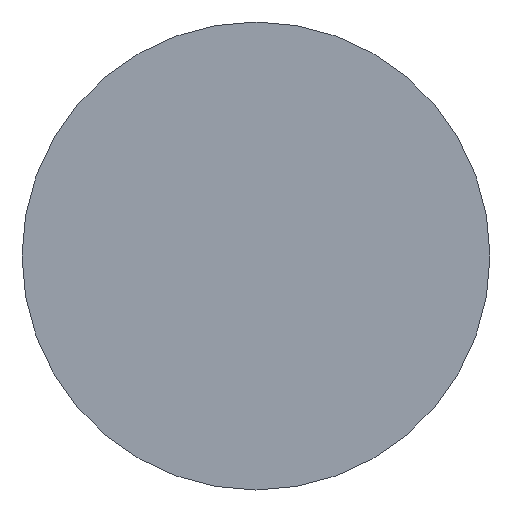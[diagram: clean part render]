
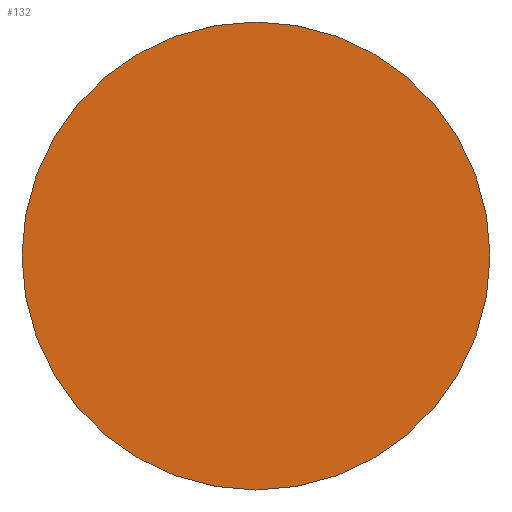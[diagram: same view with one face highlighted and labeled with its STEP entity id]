
A CAD part, left-side view. The second image highlights one B-rep face of the part: STEP entity #132.
In plain terms, the highlighted planar face has unit normal (-1, 0, 0).
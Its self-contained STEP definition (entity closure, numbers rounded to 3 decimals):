
#19 = DIRECTION ( 'NONE',  ( 0., 0., 1. ) ) ;
#20 = DIRECTION ( 'NONE',  ( -1., 0., 0. ) ) ;
#22 = PLANE ( 'NONE',  #125 ) ;
#23 = CARTESIAN_POINT ( 'NONE',  ( -412., 0., 0. ) ) ;
#36 = DIRECTION ( 'NONE',  ( 0., 0., 1. ) ) ;
#37 = DIRECTION ( 'NONE',  ( -1., 0., 0. ) ) ;
#39 = CARTESIAN_POINT ( 'NONE',  ( -412., 0., 0. ) ) ;
#45 = DIRECTION ( 'NONE',  ( 0., 0., 1. ) ) ;
#47 = CARTESIAN_POINT ( 'NONE',  ( -412., 0., 0. ) ) ;
#48 = DIRECTION ( 'NONE',  ( -1., 0., 0. ) ) ;
#56 = CARTESIAN_POINT ( 'NONE',  ( -412., 0., 5.5 ) ) ;
#57 = VERTEX_POINT ( 'NONE', #61 ) ;
#58 = VERTEX_POINT ( 'NONE', #56 ) ;
#61 = CARTESIAN_POINT ( 'NONE',  ( -412., 0., -5.5 ) ) ;
#80 = CIRCLE ( 'NONE', #126, 5.5 ) ;
#84 = CIRCLE ( 'NONE', #113, 5.5 ) ;
#86 = FACE_OUTER_BOUND ( 'NONE', #107, .T. ) ;
#100 = ORIENTED_EDGE ( 'NONE', *, *, #108, .T. ) ;
#107 = EDGE_LOOP ( 'NONE', ( #136, #100 ) ) ;
#108 = EDGE_CURVE ( 'NONE', #57, #58, #80, .T. ) ;
#113 = AXIS2_PLACEMENT_3D ( 'NONE', #39, #37, #36 ) ;
#117 = EDGE_CURVE ( 'NONE', #58, #57, #84, .T. ) ;
#125 = AXIS2_PLACEMENT_3D ( 'NONE', #23, #20, #19 ) ;
#126 = AXIS2_PLACEMENT_3D ( 'NONE', #47, #48, #45 ) ;
#132 = ADVANCED_FACE ( 'NONE', ( #86 ), #22, .T. ) ;
#136 = ORIENTED_EDGE ( 'NONE', *, *, #117, .T. ) ;
